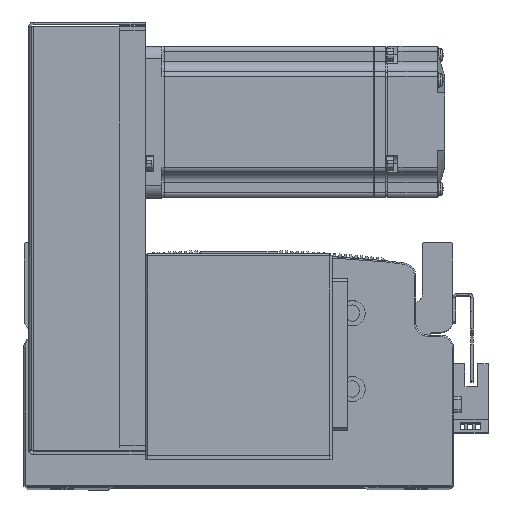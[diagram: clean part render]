
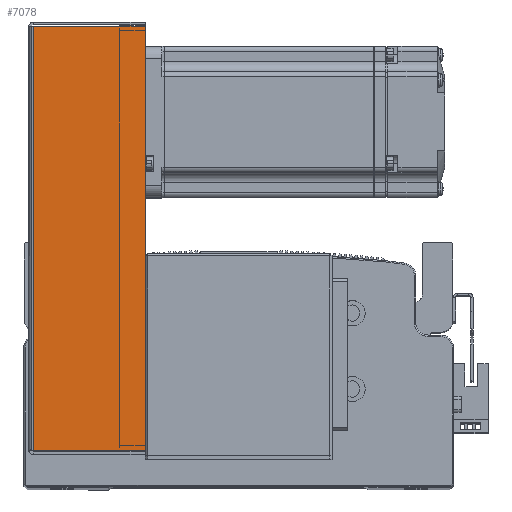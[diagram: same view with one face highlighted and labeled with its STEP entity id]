
A CAD part, top view. The second image highlights one B-rep face of the part: STEP entity #7078.
In plain terms, the highlighted planar face has unit normal (0, 0, 1) as drawn and (0, 0, -1) by its records, which use the part's own axes.
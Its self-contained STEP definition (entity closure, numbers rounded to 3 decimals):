
#7078 = ADVANCED_FACE ( 'NONE', ( #34849 ), #63512, .F. ) ;
#9357 = DIRECTION ( 'NONE',  ( 0., 1., 0. ) ) ;
#9370 = CARTESIAN_POINT ( 'NONE',  ( 83.793, 0., -40.5 ) ) ;
#9382 = DIRECTION ( 'NONE',  ( 1., 0., 0. ) ) ;
#9395 = CARTESIAN_POINT ( 'NONE',  ( -83.793, 0., -40.5 ) ) ;
#9397 = DIRECTION ( 'NONE',  ( 0., 1., 0. ) ) ;
#9400 = CARTESIAN_POINT ( 'NONE',  ( 0., 0.737, -40.5 ) ) ;
#9402 = DIRECTION ( 'NONE',  ( 1., 0., 0. ) ) ;
#9445 = CARTESIAN_POINT ( 'NONE',  ( 84.5, 45., -40.5 ) ) ;
#16455 = EDGE_CURVE ( 'NONE', #65444, #65496, #43563, .T. ) ;
#16463 = EDGE_CURVE ( 'NONE', #65496, #65416, #43587, .T. ) ;
#16465 = EDGE_CURVE ( 'NONE', #65444, #65472, #43578, .T. ) ;
#16480 = EDGE_CURVE ( 'NONE', #65472, #65416, #43616, .T. ) ;
#24296 = EDGE_LOOP ( 'NONE', ( #32205, #32081, #32183, #32266 ) ) ;
#28734 = AXIS2_PLACEMENT_3D ( 'NONE', #63527, #63514, #63473 ) ;
#32081 = ORIENTED_EDGE ( 'NONE', *, *, #16465, .T. ) ;
#32183 = ORIENTED_EDGE ( 'NONE', *, *, #16480, .T. ) ;
#32205 = ORIENTED_EDGE ( 'NONE', *, *, #16455, .F. ) ;
#32266 = ORIENTED_EDGE ( 'NONE', *, *, #16463, .F. ) ;
#33077 = CARTESIAN_POINT ( 'NONE',  ( 83.793, 45., -40.5 ) ) ;
#33192 = CARTESIAN_POINT ( 'NONE',  ( -83.793, 0.737, -40.5 ) ) ;
#33203 = CARTESIAN_POINT ( 'NONE',  ( -83.793, 45., -40.5 ) ) ;
#33225 = CARTESIAN_POINT ( 'NONE',  ( 83.793, 0.737, -40.5 ) ) ;
#34849 = FACE_OUTER_BOUND ( 'NONE', #24296, .T. ) ;
#43562 = VECTOR ( 'NONE', #9357, 1000. ) ;
#43563 = LINE ( 'NONE', #9400, #43607 ) ;
#43578 = LINE ( 'NONE', #9395, #43596 ) ;
#43587 = LINE ( 'NONE', #9370, #43562 ) ;
#43596 = VECTOR ( 'NONE', #9397, 1000. ) ;
#43607 = VECTOR ( 'NONE', #9382, 1000. ) ;
#43616 = LINE ( 'NONE', #9445, #43618 ) ;
#43618 = VECTOR ( 'NONE', #9402, 1000. ) ;
#63473 = DIRECTION ( 'NONE',  ( 0., -1., 0. ) ) ;
#63512 = PLANE ( 'NONE',  #28734 ) ;
#63514 = DIRECTION ( 'NONE',  ( 0., 0., 1. ) ) ;
#63527 = CARTESIAN_POINT ( 'NONE',  ( 0., 0., -40.5 ) ) ;
#65416 = VERTEX_POINT ( 'NONE', #33077 ) ;
#65444 = VERTEX_POINT ( 'NONE', #33192 ) ;
#65472 = VERTEX_POINT ( 'NONE', #33203 ) ;
#65496 = VERTEX_POINT ( 'NONE', #33225 ) ;
